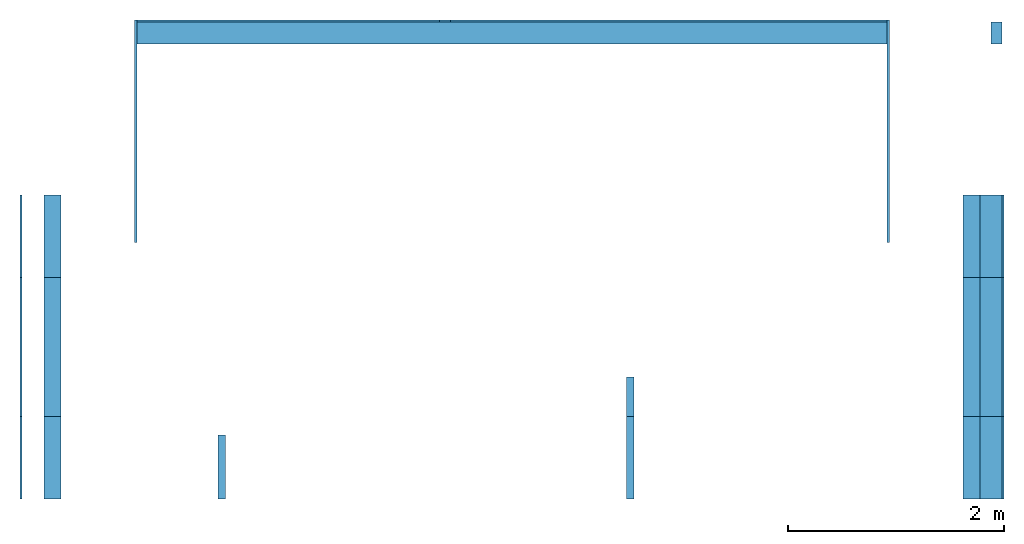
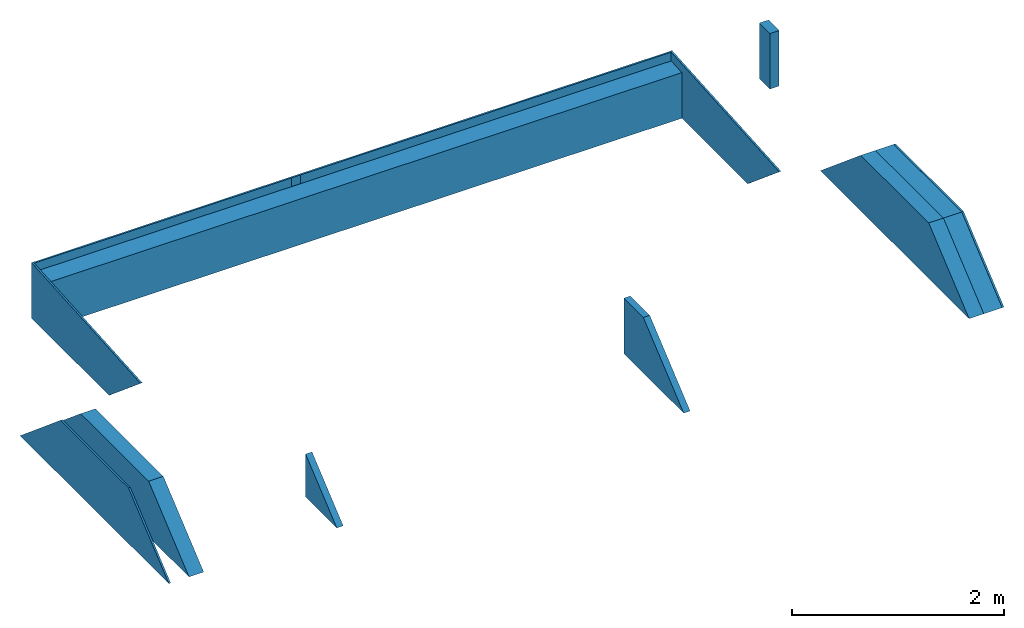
# One storey: 13 walls.
"""IFC2X3 building model written with IfcOpenShell, lengths in centimetres."""

from ifc_helpers import new_model, entity, si_unit, converted_unit, derived_unit, direction, frame, frame_2d, origin, place, context, subcontext, project, spatial, polyline, rectangle, outline, extrude, clip, halfspace, bounded_halfspace, material, layer, layer_set, layer_usage, type_object, element, save


model = new_model("IFC2X3")

# Units and contexts
model_context = context("Model", 3, precision=0.001, world=origin(), true_north=direction((6.12303176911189e-17, 1.0)))
body_context = subcontext(model_context, "Body", "Model", "MODEL_VIEW")
ifc_project = project(units=[si_unit("LENGTHUNIT", "METRE", prefix="CENTI"), si_unit("AREAUNIT", "SQUARE_METRE"), si_unit("VOLUMEUNIT", "CUBIC_METRE"), converted_unit("PLANEANGLEUNIT", "DEGREE", entity("IfcRatioMeasure", 0.0174532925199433), si_unit("PLANEANGLEUNIT", "RADIAN"), dimensions=[0, 0, 0, 0, 0, 0, 0]), si_unit("MASSUNIT", "GRAM", prefix="KILO"), derived_unit("MASSDENSITYUNIT", [(si_unit("MASSUNIT", "GRAM", prefix="KILO"), 1), (si_unit("LENGTHUNIT", "METRE"), -3)]), derived_unit("MOMENTOFINERTIAUNIT", [(si_unit("LENGTHUNIT", "METRE"), 4)]), si_unit("TIMEUNIT", "SECOND"), si_unit("FREQUENCYUNIT", "HERTZ"), si_unit("THERMODYNAMICTEMPERATUREUNIT", "DEGREE_CELSIUS"), derived_unit("THERMALTRANSMITTANCEUNIT", [(si_unit("MASSUNIT", "GRAM", prefix="KILO"), 1), (si_unit("THERMODYNAMICTEMPERATUREUNIT", "KELVIN"), -1), (si_unit("TIMEUNIT", "SECOND"), -3)]), derived_unit("VOLUMETRICFLOWRATEUNIT", [(si_unit("LENGTHUNIT", "METRE"), 3), (si_unit("TIMEUNIT", "SECOND"), -1)]), si_unit("ELECTRICCURRENTUNIT", "AMPERE"), si_unit("ELECTRICVOLTAGEUNIT", "VOLT"), si_unit("POWERUNIT", "WATT"), si_unit("FORCEUNIT", "NEWTON", prefix="KILO"), si_unit("ILLUMINANCEUNIT", "LUX"), si_unit("LUMINOUSFLUXUNIT", "LUMEN"), si_unit("LUMINOUSINTENSITYUNIT", "CANDELA"), derived_unit("USERDEFINED", [(si_unit("MASSUNIT", "GRAM", prefix="KILO"), -1), (si_unit("LENGTHUNIT", "METRE"), -2), (si_unit("TIMEUNIT", "SECOND"), 3), (si_unit("LUMINOUSFLUXUNIT", "LUMEN"), 1)]), derived_unit("LINEARVELOCITYUNIT", [(si_unit("LENGTHUNIT", "METRE"), 1), (si_unit("TIMEUNIT", "SECOND"), -1)]), si_unit("PRESSUREUNIT", "PASCAL"), derived_unit("USERDEFINED", [(si_unit("LENGTHUNIT", "METRE"), -2), (si_unit("MASSUNIT", "GRAM", prefix="KILO"), 1), (si_unit("TIMEUNIT", "SECOND"), -2)]), derived_unit("LINEARFORCEUNIT", [(si_unit("MASSUNIT", "GRAM", prefix="KILO"), 1), (si_unit("LENGTHUNIT", "METRE"), 1), (si_unit("TIMEUNIT", "SECOND"), -2), (si_unit("LENGTHUNIT", "METRE"), -1)]), derived_unit("PLANARFORCEUNIT", [(si_unit("MASSUNIT", "GRAM", prefix="KILO"), 1), (si_unit("LENGTHUNIT", "METRE"), 1), (si_unit("TIMEUNIT", "SECOND"), -2), (si_unit("LENGTHUNIT", "METRE"), -2)])], contexts=[model_context])

# Site, building, storey
site_placement = place(None, origin())
site = spatial("IfcSite", under=ifc_project, at=site_placement, Name="Surface", CompositionType="ELEMENT")
building_placement = place(site_placement, origin())
building = spatial("IfcBuilding", under=site, at=building_placement, CompositionType="ELEMENT")
storey_placement = place(building_placement, frame((0.0, 0.0, 503.0)))
storey = spatial("IfcBuildingStorey", under=building, at=storey_placement, Name="5.03_Dessous plafond", CompositionType="ELEMENT", Elevation=503.0)

# Walls
ifc_material_1 = material(Name="Maçonnerie - Béton")
ifc_layer_1 = layer(ifc_material_1, 20.0)
ifc_layer_set_1 = layer_set([ifc_layer_1], Name="Mur de base:Mur 20")
ifc_layer_usage_1 = layer_usage(ifc_layer_set_1, "AXIS2", "POSITIVE", -10.0)
wall_type_1 = type_object("IfcWallType", Name="Mur de base:Mur 20", PredefinedType="STANDARD", material=ifc_layer_set_1)
wall_1_placement = place(storey_placement, frame((-882.177260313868, 711.99231712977, 0.0), z_axis=(0.0, 0.0, 1.0), x_axis=(-1.0, 0.0, 0.0)))
element("IfcWallStandardCase", 1, at=wall_1_placement, inside=storey, type_object=wall_type_1, material=ifc_layer_usage_1, Name="Mur de base:Mur 20", ObjectType="Mur de base:Mur 20", context=body_context, shape_type="Clipping", body=[
    clip(clip(clip(clip(extrude(rectangle(XDim=896.000000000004, YDim=20.0, at=frame_2d((448.000000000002, -4.44089209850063e-15), x_axis=(-1.0, 0.0))), origin(), (0.0, 0.0, 1.0), 53.9732312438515), bounded_halfspace(frame((105.0, -10.0, 53.9732312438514), z_axis=(0.0, 0.0697564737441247, 0.997564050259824), x_axis=(-1.0, 0.0, 0.0)), False, frame((105.0, -10.0, 53.9732312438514)), polyline([(0.0, 0.0), (405.0, 0.0), (415.0, 0.0), (696.0, 0.0), (696.0, 20.0), (0.0, 20.0), (0.0, 0.0)]))), bounded_halfspace(frame((0.0, -10.0, -134.268007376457), z_axis=(0.0, -0.642787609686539, 0.766044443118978), x_axis=(1.0, 0.0, 0.0)), False, frame((0.0, -10.0, -134.268007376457)), polyline([(0.0, 0.0), (105.0, 0.0), (105.0, 20.0), (36.0, 20.0), (20.0, 20.0), (0.0, 20.0), (0.0, 10.0), (0.0, 0.0)]))), bounded_halfspace(frame((801.0, -10.0, -134.268007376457), z_axis=(0.0, -0.642787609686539, 0.766044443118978), x_axis=(1.0, 0.0, 0.0)), False, frame((801.0, -10.0, -134.268007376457)), polyline([(0.0, 0.0), (95.0, 0.0), (95.0, 20.0), (69.0, 20.0), (0.0, 20.0), (0.0, 0.0)]))), halfspace(frame((0.0, 0.0, -246.0)), True)),
])
ifc_layer_usage_2 = layer_usage(ifc_layer_set_1, "AXIS2", "NEGATIVE", 10.0)
wall_2_placement = place(storey_placement, frame((-892.177260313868, 721.992317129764, 0.0), z_axis=(0.0, 0.0, 1.0), x_axis=(0.0, -1.0, 0.0)))
element("IfcWallStandardCase", 2, at=wall_2_placement, inside=storey, type_object=wall_type_1, material=ifc_layer_usage_2, Name="Mur de base:Mur 20", ObjectType="Mur de base:Mur 20", context=body_context, shape_type="Clipping", body=[
    clip(clip(clip(extrude(outline(polyline([(581.0, -10.0), (581.0, 10.0), (0.0, 10.0), (0.0, 0.0), (20.0, 0.0), (20.0, -10.0), (581.0, -10.0)])), origin(), (0.0, 0.0, 1.0), 64.0), bounded_halfspace(frame((20.0, -10.0, -117.486014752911), z_axis=(-0.642787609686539, 0.0, 0.766044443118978), x_axis=(0.0, -1.0, 0.0)), False, frame((20.0, -10.0, -117.486014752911)), polyline([(0.0, 0.0), (280.500000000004, 0.0), (280.500000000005, 20.0), (0.0, 20.0), (0.0, 0.0)]))), bounded_halfspace(frame((300.499999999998, -10.0, 117.881431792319), z_axis=(0.642787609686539, 0.0, 0.766044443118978), x_axis=(0.0, 1.0, 0.0)), False, frame((300.499999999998, -10.0, 117.881431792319)), polyline([(0.0, 0.0), (280.499999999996, 0.0), (280.499999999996, 20.0), (0.0, 20.0), (0.0, 0.0)]))), halfspace(frame((0.0, 0.0, -246.0)), True)),
])
ifc_material_2 = material(Name="Maçonnerie - Enduit")
ifc_layer_2 = layer(ifc_material_2, 2.0)
ifc_layer_set_2 = layer_set([ifc_layer_2], Name="Mur de base:Enduit 2")
ifc_layer_usage_3 = layer_usage(ifc_layer_set_2, "AXIS2", "POSITIVE", -1.0)
wall_type_2 = type_object("IfcWallType", Name="Mur de base:Enduit 2", PredefinedType="STANDARD", material=ifc_layer_set_2)
wall_3_placement = place(storey_placement, frame((-882.177260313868, 722.992317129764, 0.0), z_axis=(0.0, 0.0, 1.0), x_axis=(-1.0, 0.0, 0.0)))
element("IfcWallStandardCase", 3, at=wall_3_placement, inside=storey, type_object=wall_type_2, material=ifc_layer_usage_3, Name="Mur de base:Enduit 2", ObjectType="Mur de base:Enduit 2", context=body_context, shape_type="Clipping", body=[
    clip(clip(extrude(rectangle(XDim=500.000000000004, YDim=1.99999999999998, at=frame_2d((260.000000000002, 2.48134846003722e-14), x_axis=(-1.0, 0.0))), origin(), (0.0, 0.0, 1.0), 64.0), bounded_halfspace(frame((0.0, -1.0, -135.946206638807), z_axis=(0.0, -0.642787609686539, 0.766044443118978), x_axis=(1.0, 0.0, 0.0)), False, frame((0.0, -1.0, -135.946206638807)), polyline([(0.0, 0.0), (105.0, 0.0), (105.0, 2.0), (0.0, 2.0), (0.0, 0.0)]))), halfspace(frame((0.0, 0.0, -511.0)), True)),
])
ifc_layer_usage_4 = layer_usage(ifc_layer_set_2, "AXIS2", "NEGATIVE", 1.0)
wall_4_placement = place(storey_placement, frame((-881.177260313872, 711.992317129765, 0.0), z_axis=(0.0, 0.0, 1.0), x_axis=(0.0, -1.0, 0.0)))
element("IfcWallStandardCase", 4, at=wall_4_placement, inside=storey, type_object=wall_type_2, material=ifc_layer_usage_4, Name="Mur de base:Enduit 2", ObjectType="Mur de base:Enduit 2", context=body_context, shape_type="Clipping", body=[
    clip(clip(clip(extrude(rectangle(XDim=592.999999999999, YDim=1.99999999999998, at=frame_2d((296.5, -7.71605002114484e-15), x_axis=(-1.0, 0.0))), origin(), (0.0, 0.0, 1.0), 64.0), bounded_halfspace(frame((0.0, -1.0, -125.877011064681), z_axis=(-0.642787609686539, 0.0, 0.766044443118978), x_axis=(0.0, -1.0, 0.0)), False, frame((0.0, -1.0, -125.877011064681)), polyline([(0.0, 0.0), (290.5, 0.0), (290.5, 2.0), (0.0, 2.0), (0.0, 0.0)]))), bounded_halfspace(frame((290.5, -1.0, 117.88143179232), z_axis=(0.642787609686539, 0.0, 0.766044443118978), x_axis=(0.0, 1.0, 0.0)), False, frame((290.5, -1.0, 117.88143179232)), polyline([(0.0, 0.0), (300.499999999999, 0.0), (302.499999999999, 0.0), (302.499999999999, 2.0), (0.0, 2.0), (0.0, 0.0)]))), halfspace(frame((0.0, 0.0, -246.0)), True)),
])
ifc_layer_usage_5 = layer_usage(ifc_layer_set_2, "AXIS2", "POSITIVE", -1.0)
wall_5_placement = place(storey_placement, frame((-1392.17726031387, 722.992317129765, 0.0), z_axis=(0.0, 0.0, 1.0), x_axis=(-1.0, 0.0, 0.0)))
element("IfcWallStandardCase", 5, at=wall_5_placement, inside=storey, type_object=wall_type_2, material=ifc_layer_usage_5, Name="Mur de base:Enduit 2", ObjectType="Mur de base:Enduit 2", context=body_context, shape_type="Clipping", body=[
    clip(clip(clip(extrude(rectangle(XDim=10.0000000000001, YDim=1.99999999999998, at=frame_2d((5.00000000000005, 2.70339306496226e-14), x_axis=(-1.0, 0.0))), origin(), (0.0, 0.0, 1.0), 64.0), bounded_halfspace(frame((0.0, 1.0, 53.9732312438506), z_axis=(0.0, 0.0697564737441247, 0.997564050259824), x_axis=(-1.0, 0.0, 0.0)), False, frame((0.0, 1.0, 53.9732312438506)), polyline([(0.0, 0.0), (0.0, -0.0336033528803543), (10.0, -0.0336033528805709), (10.0, 0.0), (0.0, 0.0)]))), bounded_halfspace(frame((10.0, -1.0, 64.0), z_axis=(-1.0, 0.0, 0.0), x_axis=(0.0, -1.0, 0.0)), True, frame((10.0, -1.0, 64.0), z_axis=(-1.0, 0.0, 0.0), x_axis=(0.0, -1.0, 0.0)), polyline([(0.0, 0.0), (-1.96639664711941, 0.0), (-1.96639664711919, -10.0244189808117), (-2.0, -10.0267687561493), (-2.0, -285.0), (0.0, -285.0), (0.0, 0.0)]))), halfspace(frame((0.0, 0.0, -221.0)), True)),
])
ifc_layer_usage_6 = layer_usage(ifc_layer_set_2, "AXIS2", "NEGATIVE", 1.0)
wall_6_placement = place(storey_placement, frame((-1778.17726031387, 722.992317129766, 0.0)))
element("IfcWallStandardCase", 6, at=wall_6_placement, inside=storey, type_object=wall_type_2, material=ifc_layer_usage_6, Name="Mur de base:Enduit 2", ObjectType="Mur de base:Enduit 2", context=body_context, shape_type="Clipping", body=[
    clip(clip(extrude(rectangle(XDim=376.0, YDim=1.99999999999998, at=frame_2d((188.0, 3.3362201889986e-14), x_axis=(-1.0, 0.0))), origin(), (0.0, 0.0, 1.0), 64.0), bounded_halfspace(frame((0.0, -1.0, -134.268007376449), z_axis=(0.0, 0.642787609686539, 0.766044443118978), x_axis=(-1.0, 0.0, 0.0)), False, frame((0.0, -1.0, -134.268007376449)), polyline([(0.0, 0.0), (95.0, 0.0), (95.0, 2.0), (0.0, 2.0), (0.0, 0.0)]))), halfspace(frame((0.0, 0.0, -246.0)), True)),
])
ifc_layer_usage_7 = layer_usage(ifc_layer_set_2, "AXIS2", "POSITIVE", -1.0)
wall_7_placement = place(storey_placement, frame((-1789.17726031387, 721.992317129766, 0.0), z_axis=(0.0, 0.0, 1.0), x_axis=(0.0, -1.0, 0.0)))
element("IfcWallStandardCase", 7, at=wall_7_placement, inside=storey, type_object=wall_type_2, material=ifc_layer_usage_7, Name="Mur de base:Enduit 2", ObjectType="Mur de base:Enduit 2", context=body_context, shape_type="Clipping", body=[
    clip(clip(clip(extrude(rectangle(XDim=601.0, YDim=1.99999999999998, at=frame_2d((300.5, -3.38618022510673e-15), x_axis=(-1.0, 0.0))), origin(), (0.0, 0.0, 1.0), 64.0), bounded_halfspace(frame((0.0, -1.0, -134.268007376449), z_axis=(-0.642787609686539, 0.0, 0.766044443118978), x_axis=(0.0, -1.0, 0.0)), False, frame((0.0, -1.0, -134.268007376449)), polyline([(0.0, 0.0), (300.499999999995, 0.0), (300.499999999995, 2.0), (0.0, 2.0), (0.0, 0.0)]))), bounded_halfspace(frame((300.499999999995, -1.0, 117.881431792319), z_axis=(0.642787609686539, 0.0, 0.766044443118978), x_axis=(0.0, 1.0, 0.0)), False, frame((300.499999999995, -1.0, 117.881431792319)), polyline([(0.0, 0.0), (300.500000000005, 0.0), (300.500000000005, 2.0), (0.0, 2.0), (0.0, 0.0)]))), halfspace(frame((0.0, 0.0, -221.0)), True)),
])
ifc_material_3 = material(Name="Zinc")
ifc_layer_3 = layer(ifc_material_3, 2.0)
ifc_layer_set_3 = layer_set([ifc_layer_3], Name="Mur de base:Bardage zinc")
ifc_layer_usage_8 = layer_usage(ifc_layer_set_3, "AXIS2", "POSITIVE", -1.0)
wall_type_3 = type_object("IfcWallType", Name="Mur de base:Bardage zinc", PredefinedType="STANDARD", material=ifc_layer_set_3)
wall_8_placement = place(storey_placement, frame((-987.177260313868, 723.992317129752, 0.0), z_axis=(0.0, 0.0, 1.0), x_axis=(0.0, -1.0, 0.0)))
element("IfcWallStandardCase", 8, at=wall_8_placement, inside=storey, type_object=wall_type_3, material=ifc_layer_usage_8, Name="Mur de base:Bardage zinc", ObjectType="Mur de base:Bardage zinc", context=body_context, shape_type="Clipping", body=[
    clip(clip(clip(extrude(rectangle(XDim=205.747191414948, YDim=1.99999999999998, at=frame_2d((102.873595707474, 0.0), x_axis=(-1.0, 0.0))), origin(), (0.0, 0.0, 1.0), 64.137503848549), halfspace(frame((205.747191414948, -1.0, 49.7502586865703), z_axis=(0.642787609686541, 0.0, -0.766044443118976), x_axis=(0.0, 1.0, 0.0)), False)), halfspace(frame((0.0, -1.0, 64.137503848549), z_axis=(0.0697564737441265, 0.0, 0.997564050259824), x_axis=(0.0, 1.0, 0.0)), False)), halfspace(frame((0.0, 0.0, -138.0)), True)),
])
ifc_layer_usage_9 = layer_usage(ifc_layer_set_3, "AXIS2", "NEGATIVE", 1.0)
wall_9_placement = place(storey_placement, frame((-1683.17726031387, 723.99231712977, 0.0), z_axis=(0.0, 0.0, 1.0), x_axis=(0.0, -1.0, 0.0)))
element("IfcWallStandardCase", 9, at=wall_9_placement, inside=storey, type_object=wall_type_3, material=ifc_layer_usage_9, Name="Mur de base:Bardage zinc", ObjectType="Mur de base:Bardage zinc", context=body_context, shape_type="Clipping", body=[
    clip(clip(clip(extrude(rectangle(XDim=205.747191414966, YDim=1.99999999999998, at=frame_2d((102.873595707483, 0.0), x_axis=(-1.0, 0.0))), origin(), (0.0, 0.0, 1.0), 64.1375038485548), halfspace(frame((205.747191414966, -1.0, 49.750258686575), z_axis=(0.642787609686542, 0.0, -0.766044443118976), x_axis=(0.0, 1.0, 0.0)), False)), halfspace(frame((0.0, -1.0, 64.1375038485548), z_axis=(0.069756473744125, 0.0, 0.997564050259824), x_axis=(0.0, 1.0, 0.0)), False)), halfspace(frame((0.0, 0.0, -138.0)), True)),
])
ifc_material_4 = material(Name="Isolant rigide")
ifc_layer_4 = layer(ifc_material_4, 16.0)
ifc_layer_set_4 = layer_set([ifc_layer_4], Name="Mur de base:Doublage 16")
ifc_layer_usage_10 = layer_usage(ifc_layer_set_4, "AXIS2", "POSITIVE", -8.0)
wall_type_4 = type_object("IfcWallType", Name="Mur de base:Doublage 16", PredefinedType="STANDARD", material=ifc_layer_set_4)
wall_10_placement = place(storey_placement, frame((-910.177260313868, 701.99231712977, 0.0), z_axis=(0.0, 0.0, 1.0), x_axis=(0.0, -1.0, 0.0)))
element("IfcWallStandardCase", 10, at=wall_10_placement, inside=storey, type_object=wall_type_4, material=ifc_layer_usage_10, Name="Mur de base:Doublage 16", ObjectType="Mur de base:Doublage 16", context=body_context, shape_type="Clipping", body=[
    clip(clip(clip(extrude(rectangle(XDim=561.0, YDim=16.0, at=frame_2d((280.5, 0.0), x_axis=(-1.0, 0.0))), origin(), (0.0, 0.0, 1.0), 64.0), bounded_halfspace(frame((0.0, -8.0, -117.486014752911), z_axis=(-0.642787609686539, 0.0, 0.766044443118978), x_axis=(0.0, -1.0, 0.0)), False, frame((0.0, -8.0, -117.486014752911)), polyline([(0.0, 0.0), (16.0, 0.0), (280.500000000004, 0.0), (280.500000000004, 16.0), (0.0, 16.0), (0.0, 0.0)]))), bounded_halfspace(frame((280.500000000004, -8.0, 117.881431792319), z_axis=(0.642787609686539, 0.0, 0.766044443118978), x_axis=(0.0, 1.0, 0.0)), False, frame((280.500000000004, -8.0, 117.881431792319)), polyline([(0.0, 0.0), (280.499999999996, 0.0), (280.499999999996, 16.0), (0.0, 16.0), (0.0, 0.0)]))), halfspace(frame((0.0, 0.0, -240.0)), True)),
])
ifc_layer_usage_11 = layer_usage(ifc_layer_set_4, "AXIS2", "POSITIVE", -8.0)
wall_11_placement = place(storey_placement, frame((-1760.17726031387, 140.992317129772, 0.0), z_axis=(0.0, 0.0, 1.0), x_axis=(0.0, 1.0, 0.0)))
element("IfcWallStandardCase", 11, at=wall_11_placement, inside=storey, type_object=wall_type_4, material=ifc_layer_usage_11, Name="Mur de base:Doublage 16", ObjectType="Mur de base:Doublage 16", context=body_context, shape_type="Clipping", body=[
    clip(clip(clip(extrude(rectangle(XDim=561.0, YDim=15.9999999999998, at=frame_2d((280.5, 0.0), x_axis=(-1.0, 0.0))), origin(), (0.0, 0.0, 1.0), 64.0), bounded_halfspace(frame((280.499999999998, -8.0, 117.881431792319), z_axis=(0.642787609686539, 0.0, 0.766044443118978), x_axis=(0.0, 1.0, 0.0)), False, frame((280.499999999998, -8.0, 117.881431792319)), polyline([(0.0, 0.0), (264.500000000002, 0.0), (280.500000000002, 0.0), (280.500000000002, 16.0), (0.0, 16.0), (0.0, 0.0)]))), bounded_halfspace(frame((0.0, -8.0, -117.486014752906), z_axis=(-0.642787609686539, 0.0, 0.766044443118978), x_axis=(0.0, -1.0, 0.0)), False, frame((0.0, -8.0, -117.486014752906)), polyline([(0.0, 0.0), (280.499999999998, 0.0), (280.499999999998, 16.0), (0.0, 16.0), (0.0, 0.0)]))), halfspace(frame((0.0, 0.0, -240.0)), True)),
])
ifc_material_5 = material(Name="Mur par défaut")
ifc_layer_5 = layer(ifc_material_5, 7.0)
ifc_layer_set_5 = layer_set([ifc_layer_5], Name="Mur de base:Cloison 7cm")
ifc_layer_usage_12 = layer_usage(ifc_layer_set_5, "AXIS2", "POSITIVE", -3.5)
wall_type_5 = type_object("IfcWallType", Name="Mur de base:Cloison 7cm", PredefinedType="STANDARD", material=ifc_layer_set_5)
wall_12_placement = place(storey_placement, frame((-1225.67726031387, 393.992317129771, 0.0), z_axis=(0.0, 0.0, 1.0), x_axis=(0.0, -1.0, 0.0)))
element("IfcWallStandardCase", 12, at=wall_12_placement, inside=storey, type_object=wall_type_5, material=ifc_layer_usage_12, Name="Mur de base:Cloison 7cm", ObjectType="Mur de base:Cloison 7cm", context=body_context, shape_type="Clipping", body=[
    clip(clip(extrude(rectangle(XDim=237.0, YDim=7.00000000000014, at=frame_2d((118.5, 0.0), x_axis=(-1.0, 0.0))), origin(), (0.0, 0.0, 1.0), 64.0), bounded_halfspace(frame((0.0, -3.49999999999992, 94.8061919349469), z_axis=(0.642787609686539, 0.0, 0.766044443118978), x_axis=(0.0, 1.0, 0.0)), False, frame((0.0, -3.49999999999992, 94.8061919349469)), polyline([(0.0, 0.0), (131.0, 0.0), (138.0, 0.0), (237.0, 0.0), (237.0, 7.0), (0.0, 7.0), (0.0, 0.0)]))), halfspace(frame((0.0, 0.0, -240.0)), True)),
])
ifc_layer_usage_13 = layer_usage(ifc_layer_set_5, "AXIS2", "NEGATIVE", 3.5)
wall_13_placement = place(storey_placement, frame((-1603.67726031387, 156.992317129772, 0.0), z_axis=(0.0, 0.0, 1.0), x_axis=(0.0, 1.0, 0.0)))
element("IfcWallStandardCase", 13, at=wall_13_placement, inside=storey, type_object=wall_type_5, material=ifc_layer_usage_13, Name="Mur de base:Cloison 7cm", ObjectType="Mur de base:Cloison 7cm", context=body_context, shape_type="Clipping", body=[
    clip(clip(extrude(rectangle(XDim=182.999999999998, YDim=7.00000000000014, at=frame_2d((91.4999999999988, 0.0), x_axis=(-1.0, 0.0))), origin(), (0.0, 0.0, 1.0), 49.4948118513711), bounded_halfspace(frame((0.0, -3.49999999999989, -104.060420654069), z_axis=(-0.642787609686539, 0.0, 0.766044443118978), x_axis=(0.0, -1.0, 0.0)), False, frame((0.0, -3.49999999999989, -104.060420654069)), polyline([(0.0, 0.0), (183.0, 0.0), (183.0, 7.0), (0.0, 7.0), (0.0, 0.0)]))), halfspace(frame((0.0, 0.0, -240.0)), True)),
])

save(model, "model.ifc")
